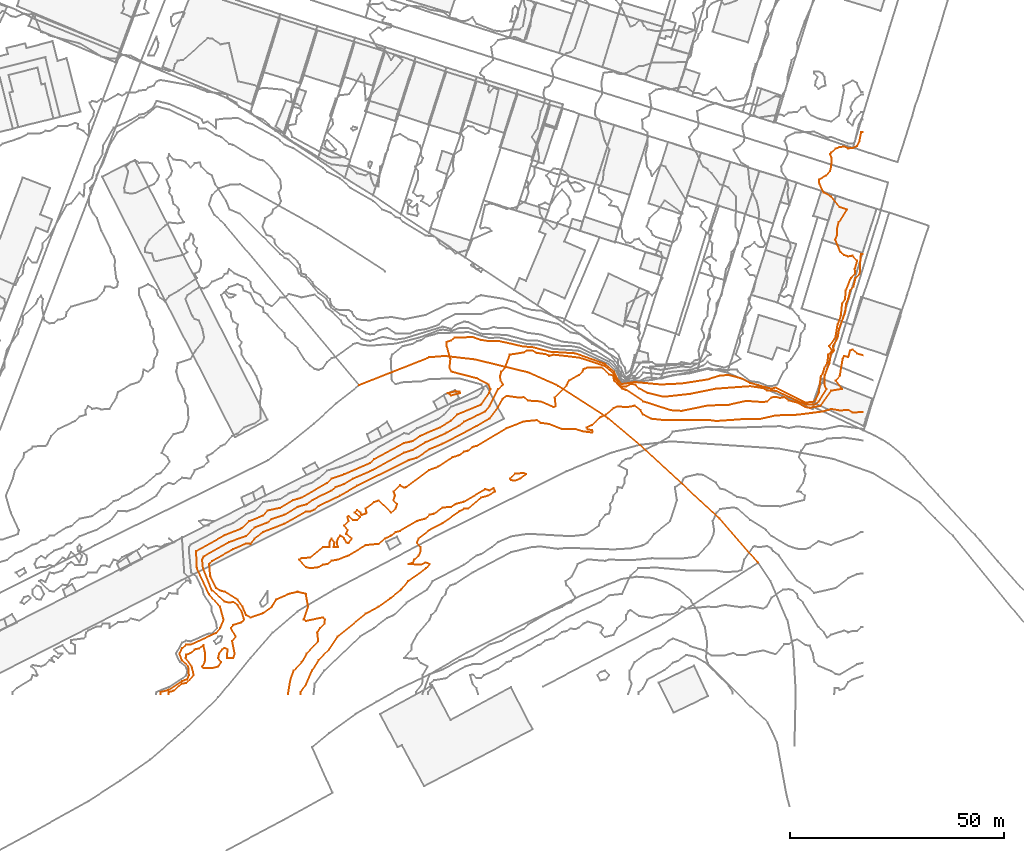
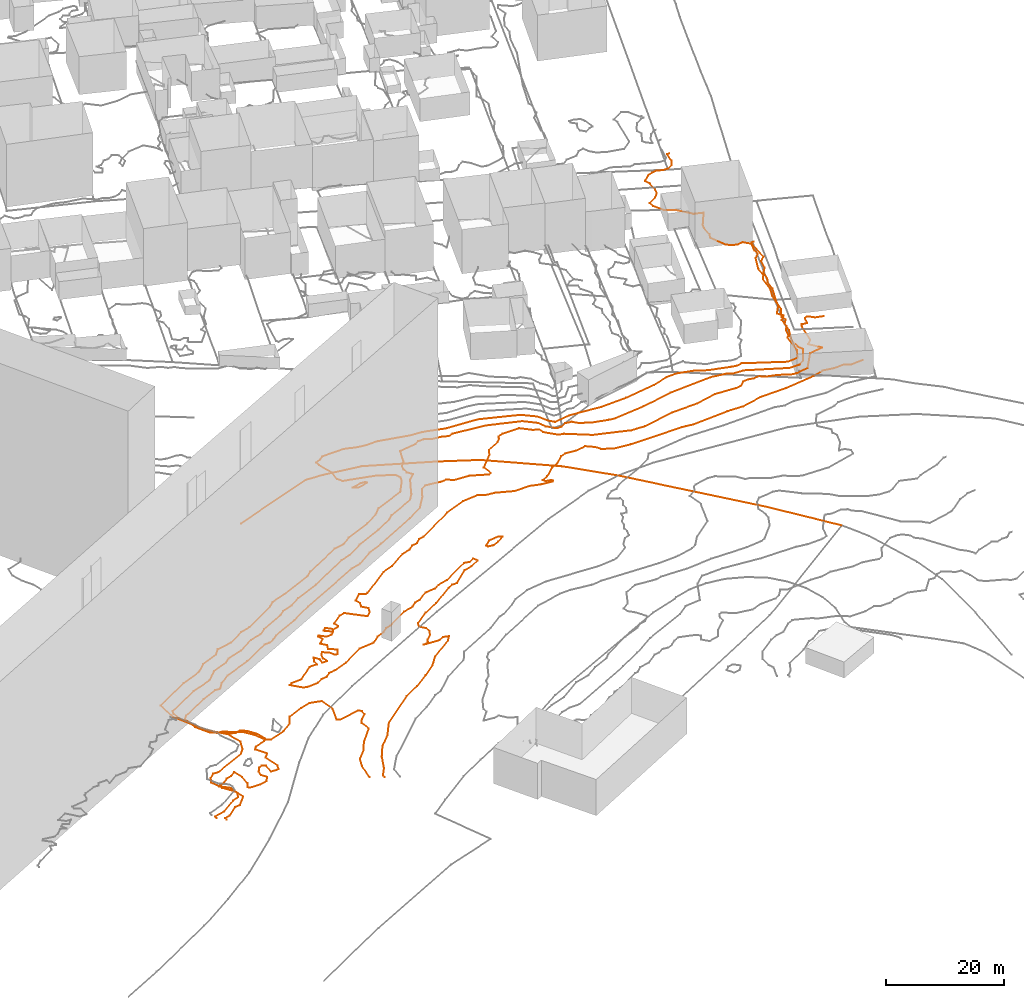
# Not in any storey, part 193 of 419: 8 proxies.
"""IFC2X3 model written with IfcOpenShell, lengths in metres."""

from ifc_helpers import new_model, entity, si_unit, frame, origin_with_axes, place, context, subcontext, project, element, save


model = new_model("IFC2X3")

# Units and contexts
model_context = context("Model", 3, precision=1e-05, world=origin_with_axes())
body_context = subcontext(model_context, "Body", "Model", "MODEL_VIEW")
ifc_project = project(units=[si_unit("AREAUNIT", "SQUARE_METRE"), si_unit("LENGTHUNIT", "METRE")], contexts=[model_context])

# Proxies
proxy_1_placement = place(None, frame((924.1920204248, 56.7976909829, 64.1), z_axis=(0.0, 0.0, 1.0), x_axis=(1.0, 0.0, 0.0)))
element("IfcBuildingElementProxy", 1, at=proxy_1_placement, Name="Route 104", ObjectType="NOTDEFINED", context=body_context, shape_type="GeometricCurveSet", body=[
    entity("IfcGeometricCurveSet", [entity("IfcPolyline", [entity("IfcCartesianPoint", [0.0, 0.0, 0.0]), entity("IfcCartesianPoint", [18.8, -17.3000000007, -2.5]), entity("IfcCartesianPoint", [27.8, -27.6000000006, -3.3])])]),
])
proxy_2_placement = place(None, frame((858.5920204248, 70.7976909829, 68.7), z_axis=(0.0, 0.0, 1.0), x_axis=(1.0, 0.0, 0.0)))
element("IfcBuildingElementProxy", 2, at=proxy_2_placement, Name="Route 159", ObjectType="NOTDEFINED", context=body_context, shape_type="GeometricCurveSet", body=[
    entity("IfcGeometricCurveSet", [entity("IfcPolyline", [entity("IfcCartesianPoint", [65.6, -14.0, -4.6]), entity("IfcCartesianPoint", [58.3, -7.8000000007, -3.9]), entity("IfcCartesianPoint", [46.6, -0.2000000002, -3.1]), entity("IfcCartesianPoint", [39.7, 2.8999999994, -2.9]), entity("IfcCartesianPoint", [27.0, 6.0, -1.3]), entity("IfcCartesianPoint", [20.0, 6.7999999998, -1.1]), entity("IfcCartesianPoint", [16.4, 6.5, -0.7]), entity("IfcCartesianPoint", [0.0, 0.0, 0.0])])]),
])
proxy_3_placement = place(None, frame((879.3142143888, 68.8976909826, 70.0), z_axis=(0.0, 0.0, 1.0), x_axis=(1.0, 0.0, 0.0)))
element("IfcBuildingElementProxy", 3, at=proxy_3_placement, Name="Contour 70.0 m", ObjectType="NOTDEFINED", context=body_context, shape_type="GeometricCurveSet", body=[
    entity("IfcGeometricCurveSet", [entity("IfcPolyline", [entity("IfcCartesianPoint", [2.8611552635, 0.0, 0.0]), entity("IfcCartesianPoint", [0.7778060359, -0.5384705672, 0.0]), entity("IfcCartesianPoint", [0.0, 0.0, 0.0]), entity("IfcCartesianPoint", [1.7778060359, 0.434784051, 0.0]), entity("IfcCartesianPoint", [2.7778060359, 0.3334181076, 0.0]), entity("IfcCartesianPoint", [2.8611552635, 0.0, 0.0])])]),
])
proxy_4_placement = place(None, frame((893.8567183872, 48.8976909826, 65.0), z_axis=(0.0, 0.0, 1.0), x_axis=(1.0, 0.0, 0.0)))
element("IfcBuildingElementProxy", 4, at=proxy_4_placement, Name="Contour 65.0 m", ObjectType="NOTDEFINED", context=body_context, shape_type="GeometricCurveSet", body=[
    entity("IfcGeometricCurveSet", [entity("IfcPolyline", [entity("IfcCartesianPoint", [2.3529306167, 0.0, 0.0]), entity("IfcCartesianPoint", [1.2353020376, -0.5000083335, 0.0]), entity("IfcCartesianPoint", [0.2353020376, -0.3636426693, 0.0]), entity("IfcCartesianPoint", [0.0, 0.0, 0.0]), entity("IfcCartesianPoint", [1.2353020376, 1.1176435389, 0.0]), entity("IfcCartesianPoint", [3.2353020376, 1.3333192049, 0.0]), entity("IfcCartesianPoint", [3.7807313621, 1.0, 0.0]), entity("IfcCartesianPoint", [2.3529306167, 0.0, 0.0])])]),
])
proxy_5_placement = place(None, frame((844.5205762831, 29.8976909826, 65.0), z_axis=(0.0, 0.0, 1.0), x_axis=(1.0, 0.0, 0.0)))
element("IfcBuildingElementProxy", 5, at=proxy_5_placement, Name="Contour 65.0 m", ObjectType="NOTDEFINED", context=body_context, shape_type="GeometricCurveSet", body=[
    entity("IfcGeometricCurveSet", [entity("IfcPolyline", [entity("IfcCartesianPoint", [132.0714441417, 34.5909106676, 0.0]), entity("IfcCartesianPoint", [129.5714441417, 34.4545359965, 0.0]), entity("IfcCartesianPoint", [128.5714441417, 35.0769117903, 0.0]), entity("IfcCartesianPoint", [126.5714441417, 34.9333435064, 0.0]), entity("IfcCartesianPoint", [124.5714441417, 35.2916679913, 0.0]), entity("IfcCartesianPoint", [122.5714441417, 34.7037016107, 0.0]), entity("IfcCartesianPoint", [116.5714441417, 33.9333435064, 0.0]), entity("IfcCartesianPoint", [111.5714441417, 33.7812507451, 0.0]), entity("IfcCartesianPoint", [107.5714441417, 32.8837139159, 0.0]), entity("IfcCartesianPoint", [104.5714441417, 32.9600067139, 0.0]), entity("IfcCartesianPoint", [97.5714441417, 32.4736785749, 0.0]), entity("IfcCartesianPoint", [95.5714441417, 32.7464781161, 0.0]), entity("IfcCartesianPoint", [85.5714441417, 32.6603760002, 0.0]), entity("IfcCartesianPoint", [82.3862505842, 33.0, 0.0]), entity("IfcCartesianPoint", [80.529769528, 34.0, 0.0]), entity("IfcCartesianPoint", [79.88573297, 35.0, 0.0]), entity("IfcCartesianPoint", [78.5714441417, 36.0465037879, 0.0]), entity("IfcCartesianPoint", [76.5714441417, 35.6874880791, 0.0]), entity("IfcCartesianPoint", [74.5714441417, 35.8999771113, 0.0]), entity("IfcCartesianPoint", [73.5714441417, 35.4999875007, 0.0]), entity("IfcCartesianPoint", [71.9048622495, 34.0, 0.0]), entity("IfcCartesianPoint", [70.5714441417, 33.4285558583, 0.0]), entity("IfcCartesianPoint", [68.5714441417, 31.5714441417, 0.0]), entity("IfcCartesianPoint", [67.321396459, 31.0, 0.0]), entity("IfcCartesianPoint", [67.5714441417, 30.5000499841, 0.0]), entity("IfcCartesianPoint", [68.5714441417, 30.3332909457, 0.0]), entity("IfcCartesianPoint", [68.7532434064, 30.0, 0.0]), entity("IfcCartesianPoint", [68.5714441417, 29.7778060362, 0.0]), entity("IfcCartesianPoint", [66.5714441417, 29.9999833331, 0.0]), entity("IfcCartesianPoint", [64.5714441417, 30.6000061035, 0.0]), entity("IfcCartesianPoint", [61.5714441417, 30.565215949, 0.0]), entity("IfcCartesianPoint", [58.5714441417, 31.75, 0.0]), entity("IfcCartesianPoint", [56.5714441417, 32.041674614, 0.0]), entity("IfcCartesianPoint", [55.5714441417, 32.6666497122, 0.0]), entity("IfcCartesianPoint", [52.5714441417, 32.3636426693, 0.0]), entity("IfcCartesianPoint", [48.5714441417, 30.7999694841, 0.0]), entity("IfcCartesianPoint", [41.5714441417, 26.6250238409, 0.0]), entity("IfcCartesianPoint", [40.5714441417, 26.4166825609, 0.0]), entity("IfcCartesianPoint", [39.5714441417, 25.4999875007, 0.0]), entity("IfcCartesianPoint", [38.5714441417, 25.333333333, 0.0]), entity("IfcCartesianPoint", [37.5714441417, 24.4999749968, 0.0]), entity("IfcCartesianPoint", [35.9047350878, 24.0, 0.0]), entity("IfcCartesianPoint", [32.5714441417, 21.7999694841, 0.0]), entity("IfcCartesianPoint", [30.4285558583, 21.0, 0.0]), entity("IfcCartesianPoint", [25.071494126, 17.0, 0.0]), entity("IfcCartesianPoint", [24.5714441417, 16.8571117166, 0.0]), entity("IfcCartesianPoint", [23.5714441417, 17.4285558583, 0.0]), entity("IfcCartesianPoint", [22.1428882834, 16.0, 0.0]), entity("IfcCartesianPoint", [22.4285558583, 15.0, 0.0]), entity("IfcCartesianPoint", [22.0714608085, 14.0, 0.0]), entity("IfcCartesianPoint", [22.9047774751, 13.0, 0.0]), entity("IfcCartesianPoint", [22.5714441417, 11.999966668, 0.0]), entity("IfcCartesianPoint", [21.5714774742, 11.0, 0.0]), entity("IfcCartesianPoint", [18.5714441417, 13.8333121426, 0.0]), entity("IfcCartesianPoint", [17.5714441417, 13.4999749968, 0.0]), entity("IfcCartesianPoint", [15.5714774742, 12.0, 0.0]), entity("IfcCartesianPoint", [15.7714746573, 11.0, 0.0]), entity("IfcCartesianPoint", [15.5714441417, 10.7499523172, 0.0]), entity("IfcCartesianPoint", [14.5714441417, 10.4999500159, 0.0]), entity("IfcCartesianPoint", [14.371413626, 11.0, 0.0]), entity("IfcCartesianPoint", [13.5714441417, 11.5714441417, 0.0]), entity("IfcCartesianPoint", [13.0, 11.0, 0.0]), entity("IfcCartesianPoint", [14.2380260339, 10.0, 0.0]), entity("IfcCartesianPoint", [13.5714441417, 9.3334181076, 0.0]), entity("IfcCartesianPoint", [12.5714441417, 9.2500476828, 0.0]), entity("IfcCartesianPoint", [11.5714441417, 10.2000305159, 0.0]), entity("IfcCartesianPoint", [11.321396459, 10.0, 0.0]), entity("IfcCartesianPoint", [11.5715441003, 9.0, 0.0]), entity("IfcCartesianPoint", [10.5715441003, 8.0, 0.0]), entity("IfcCartesianPoint", [11.371413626, 7.0, 0.0]), entity("IfcCartesianPoint", [10.9714136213, 6.0, 0.0]), entity("IfcCartesianPoint", [12.2857765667, 5.0, 0.0]), entity("IfcCartesianPoint", [11.5714441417, 3.857166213, 0.0]), entity("IfcCartesianPoint", [11.0714191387, 4.0, 0.0]), entity("IfcCartesianPoint", [10.5714441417, 4.9999499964, 0.0]), entity("IfcCartesianPoint", [9.5714441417, 5.6665818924, 0.0]), entity("IfcCartesianPoint", [9.0714691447, 5.0, 0.0]), entity("IfcCartesianPoint", [8.8214918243, 4.0, 0.0]), entity("IfcCartesianPoint", [9.071494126, 3.0, 0.0]), entity("IfcCartesianPoint", [8.0713941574, 3.0, 0.0]), entity("IfcCartesianPoint", [8.2380260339, 4.0, 0.0]), entity("IfcCartesianPoint", [7.5714441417, 4.9999499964, 0.0]), entity("IfcCartesianPoint", [7.0714691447, 4.0, 0.0]), entity("IfcCartesianPoint", [7.071494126, 3.0, 0.0]), entity("IfcCartesianPoint", [5.5714441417, 2.999966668, 0.0]), entity("IfcCartesianPoint", [2.5714441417, 0.4999900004, 0.0]), entity("IfcCartesianPoint", [0.5714441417, 0.3636426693, 0.0]), entity("IfcCartesianPoint", [0.0, 0.0, 0.0]), entity("IfcCartesianPoint", [1.5714441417, -1.7499523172, 0.0]), entity("IfcCartesianPoint", [2.5714441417, -1.9999833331, 0.0]), entity("IfcCartesianPoint", [4.5714441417, -1.7500238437, 0.0]), entity("IfcCartesianPoint", [5.5714441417, -1.1250071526, 0.0]), entity("IfcCartesianPoint", [6.6964262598, -1.0, 0.0]), entity("IfcCartesianPoint", [7.5714441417, -0.2222269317, 0.0]), entity("IfcCartesianPoint", [8.9714136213, 0.0, 0.0]), entity("IfcCartesianPoint", [11.5714316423, 1.0, 0.0]), entity("IfcCartesianPoint", [15.5714441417, 3.4090861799, 0.0]), entity("IfcCartesianPoint", [18.5714441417, 3.7142779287, 0.0]), entity("IfcCartesianPoint", [20.0714369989, 5.0, 0.0]), entity("IfcCartesianPoint", [21.5714441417, 5.628577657, 0.0]), entity("IfcCartesianPoint", [22.5714441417, 6.4318213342, 0.0]), entity("IfcCartesianPoint", [23.5714441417, 6.7500052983, 0.0]), entity("IfcCartesianPoint", [27.5714441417, 9.1034437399, 0.0]), entity("IfcCartesianPoint", [29.5714441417, 9.6190441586, 0.0]), entity("IfcCartesianPoint", [30.5714441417, 10.5555593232, 0.0]), entity("IfcCartesianPoint", [31.5714441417, 10.7619073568, 0.0]), entity("IfcCartesianPoint", [33.5714441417, 12.2092973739, 0.0]), entity("IfcCartesianPoint", [35.5714441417, 12.3823559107, 0.0]), entity("IfcCartesianPoint", [36.5714441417, 13.0294177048, 0.0]), entity("IfcCartesianPoint", [38.5714441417, 13.5861987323, 0.0]), entity("IfcCartesianPoint", [43.5714441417, 16.5000035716, 0.0]), entity("IfcCartesianPoint", [44.5714441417, 16.249992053, 0.0]), entity("IfcCartesianPoint", [45.5714441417, 16.7999694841, 0.0]), entity("IfcCartesianPoint", [45.9047774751, 16.0, 0.0]), entity("IfcCartesianPoint", [44.196467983, 15.0, 0.0]), entity("IfcCartesianPoint", [42.5714441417, 14.5500114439, 0.0]), entity("IfcCartesianPoint", [39.5714441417, 11.9705822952, 0.0]), entity("IfcCartesianPoint", [38.5714441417, 11.9200134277, 0.0]), entity("IfcCartesianPoint", [37.5714441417, 11.3749940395, 0.0]), entity("IfcCartesianPoint", [33.5714441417, 8.5714441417, 0.0]), entity("IfcCartesianPoint", [30.571458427, 7.0, 0.0]), entity("IfcCartesianPoint", [27.9714594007, 5.0, 0.0]), entity("IfcCartesianPoint", [27.5714691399, 4.0, 0.0]), entity("IfcCartesianPoint", [28.3714746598, 3.0, 0.0]), entity("IfcCartesianPoint", [28.4464203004, 2.0, 0.0]), entity("IfcCartesianPoint", [28.0158791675, 1.0, 0.0]), entity("IfcCartesianPoint", [26.9464203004, 0.0, 0.0]), entity("IfcCartesianPoint", [26.5714441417, -0.7499523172, 0.0]), entity("IfcCartesianPoint", [25.5715441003, -1.0, 0.0]), entity("IfcCartesianPoint", [28.5714441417, -1.1666878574, 0.0]), entity("IfcCartesianPoint", [29.5714441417, -0.666666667, 0.0]), entity("IfcCartesianPoint", [30.5714941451, -1.0, 0.0]), entity("IfcCartesianPoint", [29.7532434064, -2.0, 0.0]), entity("IfcCartesianPoint", [25.5047639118, -5.0, 0.0]), entity("IfcCartesianPoint", [23.8655697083, -7.0, 0.0]), entity("IfcCartesianPoint", [21.3714441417, -9.0, 0.0]), entity("IfcCartesianPoint", [18.5714441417, -11.0000032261, 0.0]), entity("IfcCartesianPoint", [15.5714441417, -12.6571409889, 0.0]), entity("IfcCartesianPoint", [8.9945199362, -18.0, 0.0]), entity("IfcCartesianPoint", [6.9661799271, -21.0, 0.0]), entity("IfcCartesianPoint", [4.5714441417, -23.4761852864, 0.0]), entity("IfcCartesianPoint", [2.9832114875, -26.0, 0.0]), entity("IfcCartesianPoint", [1.5714441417, -29.1904813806, 0.0]), entity("IfcCartesianPoint", [0.3121827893, -31.0, 0.0]), entity("IfcCartesianPoint", [0.3121827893, -31.5, 0.0])])]),
])
proxy_6_placement = place(None, frame((823.4389569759, 28.8976909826, 66.0), z_axis=(0.0, 0.0, 1.0), x_axis=(1.0, 0.0, 0.0)))
element("IfcBuildingElementProxy", 6, at=proxy_6_placement, Name="Contour 66.0 m", ObjectType="NOTDEFINED", context=body_context, shape_type="GeometricCurveSet", body=[
    entity("IfcGeometricCurveSet", [entity("IfcPolyline", [entity("IfcCartesianPoint", [153.1530634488, 48.8571117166, 0.0]), entity("IfcCartesianPoint", [151.6530634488, 49.2666700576, 0.0]), entity("IfcCartesianPoint", [150.6530634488, 50.2142779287, 0.0]), entity("IfcCartesianPoint", [150.0530329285, 50.0, 0.0]), entity("IfcCartesianPoint", [149.6530634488, 48.4999500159, 0.0]), entity("IfcCartesianPoint", [148.6530634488, 48.6665818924, 0.0]), entity("IfcCartesianPoint", [148.3197725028, 48.0, 0.0]), entity("IfcCartesianPoint", [147.6530967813, 44.0, 0.0]), entity("IfcCartesianPoint", [146.6530884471, 43.0, 0.0]), entity("IfcCartesianPoint", [148.2245075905, 41.0, 0.0]), entity("IfcCartesianPoint", [145.6530634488, 40.5714441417, 0.0]), entity("IfcCartesianPoint", [143.0724198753, 37.0, 0.0]), entity("IfcCartesianPoint", [140.6530634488, 36.5668787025, 0.0]), entity("IfcCartesianPoint", [139.6530634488, 36.7131162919, 0.0]), entity("IfcCartesianPoint", [137.6530634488, 37.7640458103, 0.0]), entity("IfcCartesianPoint", [135.6530634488, 38.3181805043, 0.0]), entity("IfcCartesianPoint", [134.6530634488, 39.064172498, 0.0]), entity("IfcCartesianPoint", [133.6530634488, 38.8709637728, 0.0]), entity("IfcCartesianPoint", [132.6530634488, 39.1199951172, 0.0]), entity("IfcCartesianPoint", [131.6530801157, 39.0, 0.0]), entity("IfcCartesianPoint", [130.6530634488, 38.0769366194, 0.0]), entity("IfcCartesianPoint", [129.6530634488, 37.8846210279, 0.0]), entity("IfcCartesianPoint", [125.6530634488, 38.19231785, 0.0]), entity("IfcCartesianPoint", [121.6530634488, 37.2666700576, 0.0]), entity("IfcCartesianPoint", [116.6530634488, 37.0908964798, 0.0]), entity("IfcCartesianPoint", [110.6530634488, 35.8437403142, 0.0]), entity("IfcCartesianPoint", [107.9863543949, 36.0, 0.0]), entity("IfcCartesianPoint", [101.6530634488, 38.0789447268, 0.0]), entity("IfcCartesianPoint", [97.6530634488, 40.7812507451, 0.0]), entity("IfcCartesianPoint", [96.6530634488, 41.0391059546, 0.0]), entity("IfcCartesianPoint", [94.8132851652, 43.0, 0.0]), entity("IfcCartesianPoint", [94.6530634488, 44.0169484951, 0.0]), entity("IfcCartesianPoint", [93.6530634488, 44.4042594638, 0.0]), entity("IfcCartesianPoint", [91.8822297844, 46.0, 0.0]), entity("IfcCartesianPoint", [88.6530634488, 45.9999857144, 0.0]), entity("IfcCartesianPoint", [87.6530634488, 45.6665818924, 0.0]), entity("IfcCartesianPoint", [87.4030872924, 45.0, 0.0]), entity("IfcCartesianPoint", [86.6530634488, 44.2499761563, 0.0]), entity("IfcCartesianPoint", [84.2530481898, 43.0, 0.0]), entity("IfcCartesianPoint", [83.6530634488, 41.7499523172, 0.0]), entity("IfcCartesianPoint", [80.9387310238, 39.0, 0.0]), entity("IfcCartesianPoint", [81.1530801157, 37.0, 0.0]), entity("IfcCartesianPoint", [80.6530634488, 36.7272853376, 0.0]), entity("IfcCartesianPoint", [77.6530634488, 38.0555673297, 0.0]), entity("IfcCartesianPoint", [74.6530634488, 38.25, 0.0]), entity("IfcCartesianPoint", [73.6530634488, 39.0754735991, 0.0]), entity("IfcCartesianPoint", [72.6530634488, 38.9166507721, 0.0]), entity("IfcCartesianPoint", [69.6530634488, 39.3611028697, 0.0]), entity("IfcCartesianPoint", [68.6530634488, 38.6521710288, 0.0]), entity("IfcCartesianPoint", [67.6530634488, 36.7618978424, 0.0]), entity("IfcCartesianPoint", [65.6530634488, 34.0975623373, 0.0]), entity("IfcCartesianPoint", [62.6530634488, 32.3095186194, 0.0]), entity("IfcCartesianPoint", [54.6530634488, 28.1632672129, 0.0]), entity("IfcCartesianPoint", [51.6530634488, 26.8958277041, 0.0]), entity("IfcCartesianPoint", [48.6530634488, 24.8846193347, 0.0]), entity("IfcCartesianPoint", [46.6530634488, 24.2954517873, 0.0]), entity("IfcCartesianPoint", [34.6530634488, 18.333333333, 0.0]), entity("IfcCartesianPoint", [30.6530634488, 15.9999979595, 0.0]), entity("IfcCartesianPoint", [25.6530634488, 13.6122442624, 0.0]), entity("IfcCartesianPoint", [24.6530634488, 12.7666700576, 0.0]), entity("IfcCartesianPoint", [23.6530634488, 12.3098612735, 0.0]), entity("IfcCartesianPoint", [22.6530634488, 12.3000030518, 0.0]), entity("IfcCartesianPoint", [17.6530634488, 9.4489840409, 0.0]), entity("IfcCartesianPoint", [12.6530634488, 7.4999981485, 0.0]), entity("IfcCartesianPoint", [10.653066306, 6.0, 0.0]), entity("IfcCartesianPoint", [9.6530634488, 4.7213147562, 0.0]), entity("IfcCartesianPoint", [8.6530634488, 4.7999999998, 0.0]), entity("IfcCartesianPoint", [5.6530634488, 3.4799957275, 0.0]), entity("IfcCartesianPoint", [0.6530634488, 0.711115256, 0.0]), entity("IfcCartesianPoint", [0.0, 0.0, 0.0]), entity("IfcCartesianPoint", [0.2835014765, -3.0, 0.0]), entity("IfcCartesianPoint", [1.6530634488, -5.6721364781, 0.0]), entity("IfcCartesianPoint", [2.6530634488, -6.2676094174, 0.0]), entity("IfcCartesianPoint", [3.6530634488, -6.4615452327, 0.0]), entity("IfcCartesianPoint", [6.6530634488, -8.3673463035, 0.0]), entity("IfcCartesianPoint", [7.8323101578, -10.0, 0.0]), entity("IfcCartesianPoint", [8.6530634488, -11.9693888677, 0.0]), entity("IfcCartesianPoint", [9.6530634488, -12.5584443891, 0.0]), entity("IfcCartesianPoint", [12.6530634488, -11.5064949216, 0.0]), entity("IfcCartesianPoint", [14.6824811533, -10.0, 0.0]), entity("IfcCartesianPoint", [15.6530634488, -8.3125119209, 0.0]), entity("IfcCartesianPoint", [18.6530634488, -6.9999947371, 0.0]), entity("IfcCartesianPoint", [20.6530634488, -6.4999944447, 0.0]), entity("IfcCartesianPoint", [22.6530834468, -7.0, 0.0]), entity("IfcCartesianPoint", [23.1530884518, -10.0, 0.0]), entity("IfcCartesianPoint", [22.1530884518, -13.0, 0.0]), entity("IfcCartesianPoint", [22.6530634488, -13.3332909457, 0.0]), entity("IfcCartesianPoint", [26.6530634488, -12.4999875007, 0.0]), entity("IfcCartesianPoint", [27.0974984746, -13.0, 0.0]), entity("IfcCartesianPoint", [27.0530787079, -14.0, 0.0]), entity("IfcCartesianPoint", [25.9387310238, -15.0, 0.0]), entity("IfcCartesianPoint", [25.3197725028, -16.0, 0.0]), entity("IfcCartesianPoint", [25.5530405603, -18.0, 0.0]), entity("IfcCartesianPoint", [22.863591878, -21.0, 0.0]), entity("IfcCartesianPoint", [21.7030729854, -23.0, 0.0]), entity("IfcCartesianPoint", [19.773058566, -25.0, 0.0]), entity("IfcCartesianPoint", [19.0376698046, -27.0, 0.0]), entity("IfcCartesianPoint", [18.4678698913, -30.5, 0.0])])]),
])
proxy_7_placement = place(None, frame((813.9839106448, -1.6023090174, 67.0), z_axis=(0.0, 0.0, 1.0), x_axis=(1.0, 0.0, 0.0)))
element("IfcBuildingElementProxy", 7, at=proxy_7_placement, Name="Contour 67.0 m", ObjectType="NOTDEFINED", context=body_context, shape_type="GeometricCurveSet", body=[
    entity("IfcGeometricCurveSet", [entity("IfcPolyline", [entity("IfcCartesianPoint", [162.60810978, 103.0999847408, 0.0]), entity("IfcCartesianPoint", [162.10810978, 103.0999847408, 0.0]), entity("IfcCartesianPoint", [161.9717500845, 102.5, 0.0]), entity("IfcCartesianPoint", [161.7923186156, 98.5, 0.0]), entity("IfcCartesianPoint", [160.8019852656, 97.5, 0.0]), entity("IfcCartesianPoint", [160.3115028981, 95.5, 0.0]), entity("IfcCartesianPoint", [159.5135163, 94.5, 0.0]), entity("IfcCartesianPoint", [159.1004158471, 92.5, 0.0]), entity("IfcCartesianPoint", [158.5991827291, 91.5, 0.0]), entity("IfcCartesianPoint", [158.3876818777, 89.5, 0.0]), entity("IfcCartesianPoint", [156.9304456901, 85.5, 0.0]), entity("IfcCartesianPoint", [156.6329706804, 83.5, 0.0]), entity("IfcCartesianPoint", [155.4997759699, 81.5, 0.0]), entity("IfcCartesianPoint", [155.7494598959, 80.5, 0.0]), entity("IfcCartesianPoint", [154.9989133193, 79.5, 0.0]), entity("IfcCartesianPoint", [154.6889176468, 77.5, 0.0]), entity("IfcCartesianPoint", [153.5175067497, 74.5, 0.0]), entity("IfcCartesianPoint", [153.5186367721, 72.5, 0.0]), entity("IfcCartesianPoint", [153.9734941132, 71.5, 0.0]), entity("IfcCartesianPoint", [152.187655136, 68.5, 0.0]), entity("IfcCartesianPoint", [151.10810978, 67.784724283, 0.0]), entity("IfcCartesianPoint", [149.10810978, 67.8080575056, 0.0]), entity("IfcCartesianPoint", [142.10810978, 71.0384587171, 0.0]), entity("IfcCartesianPoint", [140.10810978, 71.1415111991, 0.0]), entity("IfcCartesianPoint", [139.10810978, 71.6534891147, 0.0]), entity("IfcCartesianPoint", [136.10810978, 72.1250119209, 0.0]), entity("IfcCartesianPoint", [128.10810978, 71.5476112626, 0.0]), entity("IfcCartesianPoint", [122.10810978, 70.3421105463, 0.0]), entity("IfcCartesianPoint", [116.10810978, 69.6621577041, 0.0]), entity("IfcCartesianPoint", [115.10810978, 69.8000057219, 0.0]), entity("IfcCartesianPoint", [112.10810978, 70.576920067, 0.0]), entity("IfcCartesianPoint", [110.10810978, 71.5731684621, 0.0]), entity("IfcCartesianPoint", [109.2636657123, 72.5, 0.0]), entity("IfcCartesianPoint", [108.10810978, 72.6428571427, 0.0]), entity("IfcCartesianPoint", [107.10810978, 72.054838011, 0.0]), entity("IfcCartesianPoint", [106.10810978, 72.0977648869, 0.0]), entity("IfcCartesianPoint", [104.8208184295, 73.5, 0.0]), entity("IfcCartesianPoint", [104.10810978, 75.0819213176, 0.0]), entity("IfcCartesianPoint", [102.10810978, 76.8197966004, 0.0]), entity("IfcCartesianPoint", [96.10810978, 78.807693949, 0.0]), entity("IfcCartesianPoint", [90.10810978, 79.4999979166, 0.0]), entity("IfcCartesianPoint", [89.10810978, 79.2213147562, 0.0]), entity("IfcCartesianPoint", [88.10810978, 79.653846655, 0.0]), entity("IfcCartesianPoint", [86.10810978, 79.8962256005, 0.0]), entity("IfcCartesianPoint", [85.10810978, 80.5077535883, 0.0]), entity("IfcCartesianPoint", [83.9081402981, 80.5, 0.0]), entity("IfcCartesianPoint", [83.10810978, 80.0293959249, 0.0]), entity("IfcCartesianPoint", [79.8581336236, 79.5, 0.0]), entity("IfcCartesianPoint", [78.7331336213, 76.5, 0.0]), entity("IfcCartesianPoint", [77.8581336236, 75.5, 0.0]), entity("IfcCartesianPoint", [77.6081222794, 74.5, 0.0]), entity("IfcCartesianPoint", [77.6706008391, 73.5, 0.0]), entity("IfcCartesianPoint", [78.2899311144, 72.5, 0.0]), entity("IfcCartesianPoint", [77.10810978, 71.4047774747, 0.0]), entity("IfcCartesianPoint", [75.0899241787, 67.5, 0.0]), entity("IfcCartesianPoint", [74.10810978, 66.1956528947, 0.0]), entity("IfcCartesianPoint", [69.10810978, 63.8243293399, 0.0]), entity("IfcCartesianPoint", [68.10810978, 62.9523805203, 0.0]), entity("IfcCartesianPoint", [65.10810978, 61.249996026, 0.0]), entity("IfcCartesianPoint", [60.10810978, 59.0102063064, 0.0]), entity("IfcCartesianPoint", [57.10810978, 57.2115378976, 0.0]), entity("IfcCartesianPoint", [55.10810978, 56.5681786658, 0.0]), entity("IfcCartesianPoint", [47.7747764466, 52.5, 0.0]), entity("IfcCartesianPoint", [43.1515966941, 50.5, 0.0]), entity("IfcCartesianPoint", [41.10810978, 49.2391239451, 0.0]), entity("IfcCartesianPoint", [39.10810978, 48.5243952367, 0.0]), entity("IfcCartesianPoint", [38.10810978, 47.7272719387, 0.0]), entity("IfcCartesianPoint", [33.6497698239, 45.5, 0.0]), entity("IfcCartesianPoint", [32.3353951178, 44.5, 0.0]), entity("IfcCartesianPoint", [30.10810978, 43.8800048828, 0.0]), entity("IfcCartesianPoint", [27.10810978, 42.0208296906, 0.0]), entity("IfcCartesianPoint", [24.10810978, 41.0384547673, 0.0]), entity("IfcCartesianPoint", [23.10810978, 40.2169776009, 0.0]), entity("IfcCartesianPoint", [20.10810978, 39.0714259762, 0.0]), entity("IfcCartesianPoint", [18.10810978, 37.0454524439, 0.0]), entity("IfcCartesianPoint", [14.10810978, 35.6399993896, 0.0]), entity("IfcCartesianPoint", [8.10810978, 32.240738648, 0.0]), entity("IfcCartesianPoint", [7.8182569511, 31.5, 0.0]), entity("IfcCartesianPoint", [8.0211561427, 29.5, 0.0]), entity("IfcCartesianPoint", [10.10810978, 24.3269290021, 0.0]), entity("IfcCartesianPoint", [13.10810978, 21.6833348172, 0.0]), entity("IfcCartesianPoint", [14.10810978, 21.4166701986, 0.0]), entity("IfcCartesianPoint", [15.10810978, 21.6234552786, 0.0]), entity("IfcCartesianPoint", [16.10810978, 20.8968271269, 0.0]), entity("IfcCartesianPoint", [17.10810978, 19.3333248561, 0.0]), entity("IfcCartesianPoint", [17.6298453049, 17.5, 0.0]), entity("IfcCartesianPoint", [17.10810978, 16.8684221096, 0.0]), entity("IfcCartesianPoint", [15.10810978, 16.2333299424, 0.0]), entity("IfcCartesianPoint", [14.5580983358, 15.5, 0.0]), entity("IfcCartesianPoint", [15.708094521, 13.5, 0.0]), entity("IfcCartesianPoint", [14.8580620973, 12.5, 0.0]), entity("IfcCartesianPoint", [15.4306880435, 9.5, 0.0]), entity("IfcCartesianPoint", [15.10810978, 8.4999962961, 0.0]), entity("IfcCartesianPoint", [13.6080931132, 8.5, 0.0]), entity("IfcCartesianPoint", [13.7746916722, 10.5, 0.0]), entity("IfcCartesianPoint", [13.10810978, 10.8332909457, 0.0]), entity("IfcCartesianPoint", [12.4415278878, 10.5, 0.0]), entity("IfcCartesianPoint", [11.7746916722, 9.5, 0.0]), entity("IfcCartesianPoint", [11.608134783, 8.5, 0.0]), entity("IfcCartesianPoint", [12.2192397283, 7.5, 0.0]), entity("IfcCartesianPoint", [11.6081597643, 6.5, 0.0]), entity("IfcCartesianPoint", [10.10810978, 6.1363573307, 0.0]), entity("IfcCartesianPoint", [8.10810978, 6.1667090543, 0.0]), entity("IfcCartesianPoint", [7.8581336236, 6.5, 0.0]), entity("IfcCartesianPoint", [8.4415278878, 7.5, 0.0]), entity("IfcCartesianPoint", [8.5626804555, 9.5, 0.0]), entity("IfcCartesianPoint", [8.10810978, 11.4999000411, 0.0]), entity("IfcCartesianPoint", [7.10810978, 10.7500476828, 0.0]), entity("IfcCartesianPoint", [6.10810978, 10.4999499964, 0.0]), entity("IfcCartesianPoint", [5.10810978, 9.6428882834, 0.0]), entity("IfcCartesianPoint", [4.10810978, 9.2499523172, 0.0]), entity("IfcCartesianPoint", [4.0009708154, 8.5, 0.0]), entity("IfcCartesianPoint", [5.3938318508, 6.5, 0.0]), entity("IfcCartesianPoint", [5.8414397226, 4.5, 0.0]), entity("IfcCartesianPoint", [4.10810978, 2.5875930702, 0.0]), entity("IfcCartesianPoint", [3.10810978, 2.5397725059, 0.0]), entity("IfcCartesianPoint", [1.10810978, 0.8157926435, 0.0]), entity("IfcCartesianPoint", [0.0, 0.5, 0.0]), entity("IfcCartesianPoint", [0.0, 0.0, 0.0])])]),
])
proxy_8_placement = place(None, frame((812.0326165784, -1.6023090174, 68.0), z_axis=(0.0, 0.0, 1.0), x_axis=(1.0, 0.0, 0.0)))
element("IfcBuildingElementProxy", 8, at=proxy_8_placement, Name="Contour 68.0 m", ObjectType="NOTDEFINED", context=body_context, shape_type="GeometricCurveSet", body=[
    entity("IfcGeometricCurveSet", [entity("IfcPolyline", [entity("IfcCartesianPoint", [164.5594038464, 131.5909048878, 0.0]), entity("IfcCartesianPoint", [164.0594038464, 131.5909048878, 0.0]), entity("IfcCartesianPoint", [163.6661468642, 129.5, 0.0]), entity("IfcCartesianPoint", [163.0594038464, 128.3863573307, 0.0]), entity("IfcCartesianPoint", [162.0594038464, 127.8373471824, 0.0]), entity("IfcCartesianPoint", [161.0594038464, 127.8181823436, 0.0]), entity("IfcCartesianPoint", [160.0594038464, 128.2368294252, 0.0]), entity("IfcCartesianPoint", [159.0594038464, 128.1153755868, 0.0]), entity("IfcCartesianPoint", [158.0594038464, 127.7499761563, 0.0]), entity("IfcCartesianPoint", [157.0594038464, 126.7999923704, 0.0]), entity("IfcCartesianPoint", [156.8286391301, 126.5, 0.0]), entity("IfcCartesianPoint", [157.1427530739, 125.5, 0.0]), entity("IfcCartesianPoint", [157.0594181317, 123.5, 0.0]), entity("IfcCartesianPoint", [156.7737362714, 122.5, 0.0]), entity("IfcCartesianPoint", [155.8593733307, 121.5, 0.0]), entity("IfcCartesianPoint", [154.2022921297, 120.5, 0.0]), entity("IfcCartesianPoint", [154.2901685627, 119.5, 0.0]), entity("IfcCartesianPoint", [155.2815978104, 117.5, 0.0]), entity("IfcCartesianPoint", [157.0594181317, 116.5, 0.0]), entity("IfcCartesianPoint", [159.0594038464, 114.0714441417, 0.0]), entity("IfcCartesianPoint", [160.726070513, 113.5, 0.0]), entity("IfcCartesianPoint", [158.8286391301, 110.5, 0.0]), entity("IfcCartesianPoint", [158.4969127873, 109.5, 0.0]), entity("IfcCartesianPoint", [158.4165700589, 107.5, 0.0]), entity("IfcCartesianPoint", [158.0005697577, 106.5, 0.0]), entity("IfcCartesianPoint", [159.2094000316, 103.5, 0.0]), entity("IfcCartesianPoint", [160.0594038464, 102.8200073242, 0.0]), entity("IfcCartesianPoint", [161.0594038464, 102.5000027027, 0.0]), entity("IfcCartesianPoint", [162.0594038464, 102.6830949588, 0.0]), entity("IfcCartesianPoint", [163.1314775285, 101.5, 0.0]), entity("IfcCartesianPoint", [162.5681776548, 99.5, 0.0]), entity("IfcCartesianPoint", [162.6616770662, 98.5, 0.0]), entity("IfcCartesianPoint", [161.6691601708, 97.5, 0.0]), entity("IfcCartesianPoint", [160.4611149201, 94.5, 0.0]), entity("IfcCartesianPoint", [160.28248095, 92.5, 0.0]), entity("IfcCartesianPoint", [159.6002212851, 91.5, 0.0]), entity("IfcCartesianPoint", [159.3055588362, 88.5, 0.0]), entity("IfcCartesianPoint", [158.5281531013, 86.5, 0.0]), entity("IfcCartesianPoint", [158.0594038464, 83.6087007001, 0.0]), entity("IfcCartesianPoint", [156.5775861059, 81.5, 0.0]), entity("IfcCartesianPoint", [157.2788121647, 80.5, 0.0]), entity("IfcCartesianPoint", [156.3754965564, 79.5, 0.0]), entity("IfcCartesianPoint", [156.1351620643, 77.5, 0.0]), entity("IfcCartesianPoint", [155.465906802, 76.5, 0.0]), entity("IfcCartesianPoint", [155.0594038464, 74.9382018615, 0.0]), entity("IfcCartesianPoint", [154.6308312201, 74.5, 0.0]), entity("IfcCartesianPoint", [154.1503129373, 70.5, 0.0]), entity("IfcCartesianPoint", [153.0906526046, 68.5, 0.0]), entity("IfcCartesianPoint", [151.0594038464, 68.281991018, 0.0]), entity("IfcCartesianPoint", [144.0594038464, 71.802324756, 0.0]), entity("IfcCartesianPoint", [143.0594038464, 71.5520211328, 0.0]), entity("IfcCartesianPoint", [142.0594038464, 71.7719302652, 0.0]), entity("IfcCartesianPoint", [138.0594038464, 72.8872345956, 0.0]), entity("IfcCartesianPoint", [136.0594038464, 73.9227629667, 0.0]), entity("IfcCartesianPoint", [133.0594038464, 74.7280654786, 0.0]), entity("IfcCartesianPoint", [131.0594038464, 74.624996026, 0.0]), entity("IfcCartesianPoint", [128.0594038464, 73.6999949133, 0.0]), entity("IfcCartesianPoint", [122.0594038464, 72.749992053, 0.0]), entity("IfcCartesianPoint", [117.0594038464, 72.5158762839, 0.0]), entity("IfcCartesianPoint", [111.0594038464, 73.0977648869, 0.0]), entity("IfcCartesianPoint", [108.0594038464, 72.6327008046, 0.0]), entity("IfcCartesianPoint", [107.2671970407, 73.5, 0.0]), entity("IfcCartesianPoint", [106.2096938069, 75.5, 0.0]), entity("IfcCartesianPoint", [104.0594038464, 77.3274124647, 0.0]), entity("IfcCartesianPoint", [97.0594038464, 79.8185191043, 0.0]), entity("IfcCartesianPoint", [91.0594038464, 80.197479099, 0.0]), entity("IfcCartesianPoint", [87.0594038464, 81.2829468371, 0.0]), entity("IfcCartesianPoint", [85.0594038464, 81.3846128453, 0.0]), entity("IfcCartesianPoint", [79.0594038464, 82.7249977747, 0.0]), entity("IfcCartesianPoint", [77.0594038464, 82.6366924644, 0.0]), entity("IfcCartesianPoint", [75.0594038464, 82.9382018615, 0.0]), entity("IfcCartesianPoint", [73.0594038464, 83.6111104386, 0.0]), entity("IfcCartesianPoint", [68.8593733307, 83.5, 0.0]), entity("IfcCartesianPoint", [68.0594038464, 82.8332909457, 0.0]), entity("IfcCartesianPoint", [67.0594538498, 82.5, 0.0]), entity("IfcCartesianPoint", [67.0594288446, 81.5, 0.0]), entity("IfcCartesianPoint", [67.8927159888, 78.5, 0.0]), entity("IfcCartesianPoint", [67.6844276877, 76.5, 0.0]), entity("IfcCartesianPoint", [68.1844276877, 75.5, 0.0]), entity("IfcCartesianPoint", [74.0594038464, 73.9886382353, 0.0]), entity("IfcCartesianPoint", [76.8388134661, 72.5, 0.0]), entity("IfcCartesianPoint", [77.2594063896, 71.5, 0.0]), entity("IfcCartesianPoint", [76.9139467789, 70.5, 0.0]), entity("IfcCartesianPoint", [75.0594038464, 67.8111118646, 0.0]), entity("IfcCartesianPoint", [69.4506995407, 65.5, 0.0]), entity("IfcCartesianPoint", [68.0594038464, 64.0777766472, 0.0]), entity("IfcCartesianPoint", [65.476067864, 62.5, 0.0]), entity("IfcCartesianPoint", [60.7677358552, 60.5, 0.0]), entity("IfcCartesianPoint", [59.0594038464, 59.2674455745, 0.0]), entity("IfcCartesianPoint", [57.0594038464, 58.8409106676, 0.0]), entity("IfcCartesianPoint", [50.0594038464, 55.0365835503, 0.0]), entity("IfcCartesianPoint", [49.0594038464, 54.1346136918, 0.0]), entity("IfcCartesianPoint", [43.0594038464, 51.4999977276, 0.0]), entity("IfcCartesianPoint", [40.0594038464, 50.4999972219, 0.0]), entity("IfcCartesianPoint", [39.0260637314, 49.5, 0.0]), entity("IfcCartesianPoint", [33.0594038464, 46.0352080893, 0.0]), entity("IfcCartesianPoint", [31.0594038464, 45.457453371, 0.0]), entity("IfcCartesianPoint", [28.0594038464, 43.6428571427, 0.0]), entity("IfcCartesianPoint", [25.0594038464, 43.0384600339, 0.0]), entity("IfcCartesianPoint", [24.0594038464, 41.8750089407, 0.0]), entity("IfcCartesianPoint", [20.7690907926, 40.5, 0.0]), entity("IfcCartesianPoint", [19.0594038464, 38.8666649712, 0.0]), entity("IfcCartesianPoint", [15.0594038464, 37.2500047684, 0.0]), entity("IfcCartesianPoint", [8.3624278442, 33.5, 0.0]), entity("IfcCartesianPoint", [8.5308319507, 29.5, 0.0]), entity("IfcCartesianPoint", [11.3556983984, 23.5, 0.0]), entity("IfcCartesianPoint", [13.9613590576, 20.5, 0.0]), entity("IfcCartesianPoint", [14.7915464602, 17.5, 0.0]), entity("IfcCartesianPoint", [14.01395114, 15.5, 0.0]), entity("IfcCartesianPoint", [13.0594038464, 14.36725586, 0.0]), entity("IfcCartesianPoint", [7.0594038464, 11.6031728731, 0.0]), entity("IfcCartesianPoint", [6.0594038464, 11.5934565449, 0.0]), entity("IfcCartesianPoint", [5.0594038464, 10.7727262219, 0.0]), entity("IfcCartesianPoint", [4.4535643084, 9.5, 0.0]), entity("IfcCartesianPoint", [5.0594038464, 7.8749984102, 0.0]), entity("IfcCartesianPoint", [6.523091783, 6.5, 0.0]), entity("IfcCartesianPoint", [6.6808730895, 4.5, 0.0]), entity("IfcCartesianPoint", [6.2517110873, 3.5, 0.0]), entity("IfcCartesianPoint", [5.0594038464, 3.1079536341, 0.0]), entity("IfcCartesianPoint", [2.0594038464, 1.0561494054, 0.0]), entity("IfcCartesianPoint", [0.0594038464, 0.5350863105, 0.0]), entity("IfcCartesianPoint", [0.0, 0.0, 0.0])])]),
])

save(model, "model.ifc")
